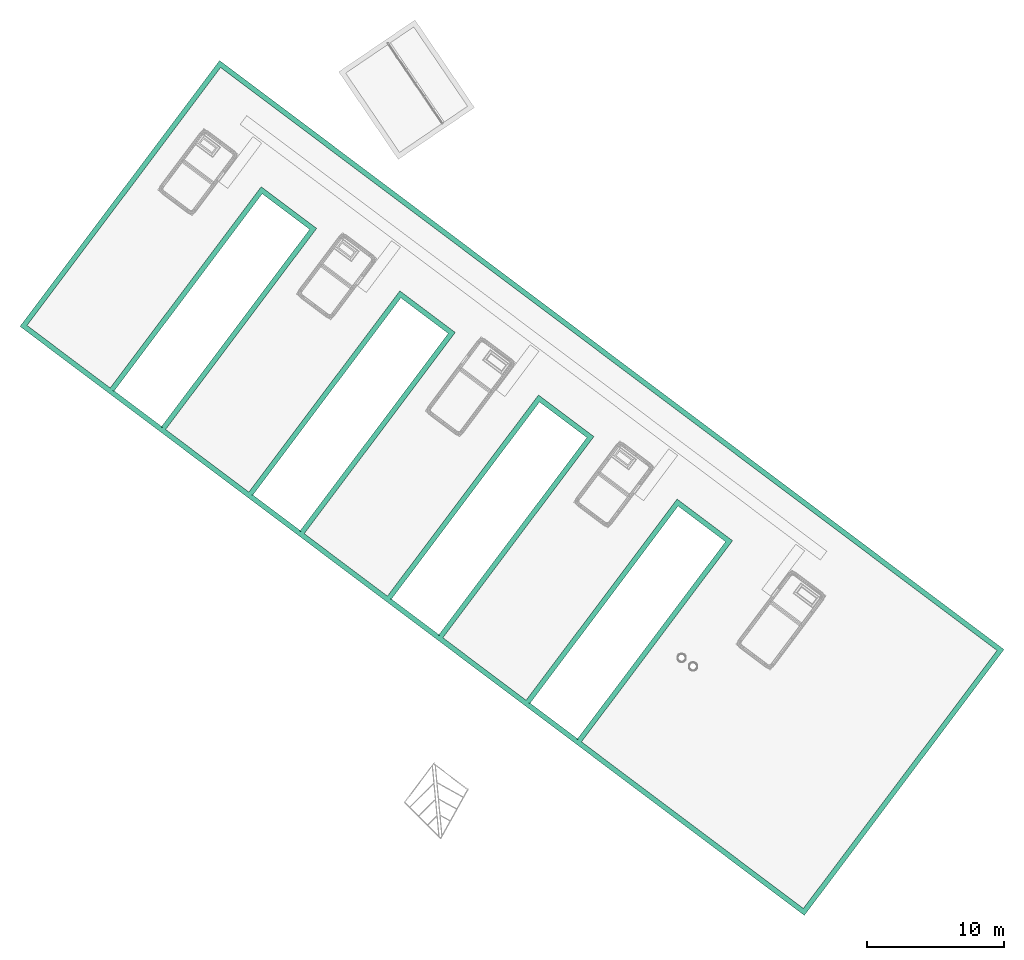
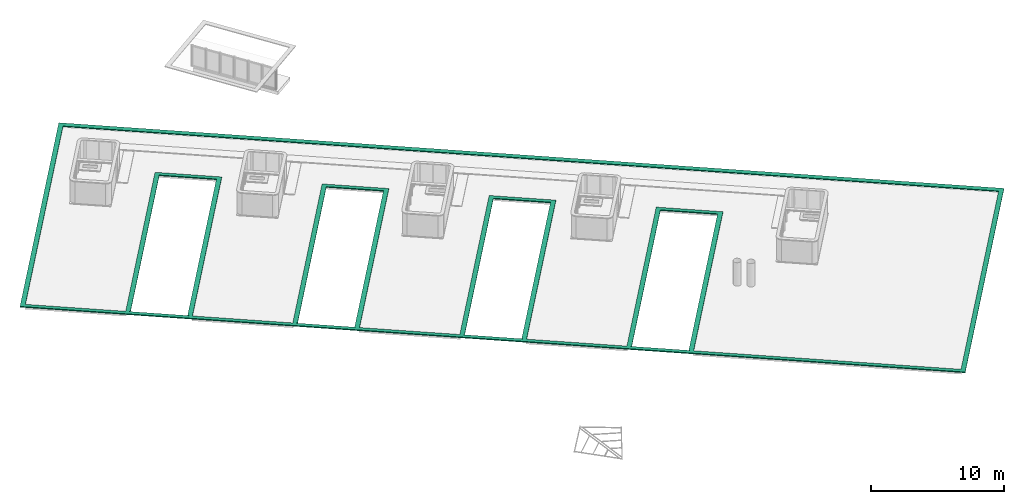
# One storey, part 24 of 28: 1 flow segment.
"""IFC2X3 building model written with IfcOpenShell, lengths in metres."""

from ifc_helpers import new_model, entity, si_unit, converted_unit, derived_unit, direction, frame, origin, place, context, subcontext, project, spatial, faceted_brep, source, transform, mapped, type_object, type_shapes, element, save


model = new_model("IFC2X3")

# Units and contexts
model_context = context("Model", 3, precision=1e-05, world=origin(), true_north=direction((6.123031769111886e-17, 1.0)))
body_context = subcontext(model_context, "Body", "Model", "MODEL_VIEW")
ifc_project = project(units=[si_unit("LENGTHUNIT", "METRE"), si_unit("AREAUNIT", "SQUARE_METRE"), si_unit("VOLUMEUNIT", "CUBIC_METRE"), converted_unit("PLANEANGLEUNIT", "DEGREE", entity("IfcRatioMeasure", 0.017453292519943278), si_unit("PLANEANGLEUNIT", "RADIAN"), dimensions=[0, 0, 0, 0, 0, 0, 0]), si_unit("MASSUNIT", "GRAM", prefix="KILO"), derived_unit("MASSDENSITYUNIT", [(si_unit("MASSUNIT", "GRAM", prefix="KILO"), 1), (si_unit("LENGTHUNIT", "METRE"), -3)]), derived_unit("IONCONCENTRATIONUNIT", [(si_unit("MASSUNIT", "GRAM", prefix="KILO"), 1), (si_unit("LENGTHUNIT", "METRE"), -3)]), derived_unit("MOMENTOFINERTIAUNIT", [(si_unit("LENGTHUNIT", "METRE"), 4)]), si_unit("TIMEUNIT", "SECOND"), si_unit("FREQUENCYUNIT", "HERTZ"), si_unit("THERMODYNAMICTEMPERATUREUNIT", "DEGREE_CELSIUS"), derived_unit("THERMALTRANSMITTANCEUNIT", [(si_unit("MASSUNIT", "GRAM", prefix="KILO"), 1), (si_unit("THERMODYNAMICTEMPERATUREUNIT", "KELVIN"), -1), (si_unit("TIMEUNIT", "SECOND"), -3)]), derived_unit("THERMALCONDUCTANCEUNIT", [(si_unit("MASSUNIT", "GRAM", prefix="KILO"), 1), (si_unit("THERMODYNAMICTEMPERATUREUNIT", "KELVIN"), -1), (si_unit("TIMEUNIT", "SECOND"), -3), (si_unit("LENGTHUNIT", "METRE"), 1)]), derived_unit("VOLUMETRICFLOWRATEUNIT", [(si_unit("LENGTHUNIT", "METRE"), 3), (si_unit("TIMEUNIT", "SECOND"), -1)]), derived_unit("MASSFLOWRATEUNIT", [(si_unit("MASSUNIT", "GRAM", prefix="KILO"), 1), (si_unit("TIMEUNIT", "SECOND"), -1)]), derived_unit("ROTATIONALFREQUENCYUNIT", [(si_unit("TIMEUNIT", "SECOND"), -1)]), si_unit("ELECTRICCURRENTUNIT", "AMPERE"), si_unit("ELECTRICVOLTAGEUNIT", "VOLT"), si_unit("POWERUNIT", "WATT"), si_unit("FORCEUNIT", "NEWTON", prefix="KILO"), si_unit("ILLUMINANCEUNIT", "LUX"), si_unit("LUMINOUSFLUXUNIT", "LUMEN"), si_unit("LUMINOUSINTENSITYUNIT", "CANDELA"), derived_unit("USERDEFINED", [(si_unit("MASSUNIT", "GRAM", prefix="KILO"), -1), (si_unit("LENGTHUNIT", "METRE"), -2), (si_unit("TIMEUNIT", "SECOND"), 3), (si_unit("LUMINOUSFLUXUNIT", "LUMEN"), 1)]), derived_unit("USERDEFINED", [(si_unit("MASSUNIT", "GRAM", prefix="KILO"), 1), (si_unit("TIMEUNIT", "SECOND"), -3), (si_unit("LENGTHUNIT", "METRE"), 3), (si_unit("ELECTRICCURRENTUNIT", "AMPERE"), -2)]), derived_unit("SOUNDPOWERUNIT", [(si_unit("MASSUNIT", "GRAM", prefix="KILO"), 1), (si_unit("TIMEUNIT", "SECOND"), -3), (si_unit("LENGTHUNIT", "METRE"), 2)]), derived_unit("SOUNDPRESSUREUNIT", [(si_unit("MASSUNIT", "GRAM", prefix="KILO"), 1), (si_unit("LENGTHUNIT", "METRE"), -1), (si_unit("TIMEUNIT", "SECOND"), -2)]), derived_unit("LINEARVELOCITYUNIT", [(si_unit("LENGTHUNIT", "METRE"), 1), (si_unit("TIMEUNIT", "SECOND"), -1)]), si_unit("PRESSUREUNIT", "PASCAL"), derived_unit("USERDEFINED", [(si_unit("MASSUNIT", "GRAM", prefix="KILO"), 1), (si_unit("LENGTHUNIT", "METRE"), -2), (si_unit("TIMEUNIT", "SECOND"), -2)]), derived_unit("LINEARFORCEUNIT", [(si_unit("MASSUNIT", "GRAM", prefix="KILO"), 1), (si_unit("TIMEUNIT", "SECOND"), -2)]), derived_unit("PLANARFORCEUNIT", [(si_unit("MASSUNIT", "GRAM", prefix="KILO"), 1), (si_unit("LENGTHUNIT", "METRE"), -1), (si_unit("TIMEUNIT", "SECOND"), -2)]), derived_unit("SPECIFICHEATCAPACITYUNIT", [(si_unit("THERMODYNAMICTEMPERATUREUNIT", "KELVIN"), -1), (si_unit("LENGTHUNIT", "METRE"), 2), (si_unit("TIMEUNIT", "SECOND"), -2)]), derived_unit("HEATINGVALUEUNIT", [(si_unit("LENGTHUNIT", "METRE"), 2), (si_unit("TIMEUNIT", "SECOND"), -2)]), derived_unit("VAPORPERMEABILITYUNIT", [(si_unit("LENGTHUNIT", "METRE"), -1), (si_unit("TIMEUNIT", "SECOND"), 1)]), derived_unit("DYNAMICVISCOSITYUNIT", [(si_unit("MASSUNIT", "GRAM", prefix="KILO"), 1), (si_unit("TIMEUNIT", "SECOND"), -1), (si_unit("LENGTHUNIT", "METRE"), -1)]), derived_unit("THERMALEXPANSIONCOEFFICIENTUNIT", [(si_unit("THERMODYNAMICTEMPERATUREUNIT", "KELVIN"), -1)]), derived_unit("MODULUSOFELASTICITYUNIT", [(si_unit("MASSUNIT", "GRAM", prefix="KILO"), 1), (si_unit("LENGTHUNIT", "METRE"), -1), (si_unit("TIMEUNIT", "SECOND"), -2)]), derived_unit("ISOTHERMALMOISTURECAPACITYUNIT", [(si_unit("LENGTHUNIT", "METRE"), 3), (si_unit("MASSUNIT", "GRAM", prefix="KILO"), -1)]), derived_unit("MOISTUREDIFFUSIVITYUNIT", [(si_unit("TIMEUNIT", "SECOND"), -1), (si_unit("LENGTHUNIT", "METRE"), 2)])], contexts=[model_context])

# Site, building, storey
site_placement = place(None, frame((0.0, 0.0, 235.0), z_axis=(0.0, 0.0, 1.0), x_axis=(-0.7996477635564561, 0.6004693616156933, 0.0)))
site = spatial("IfcSite", under=ifc_project, at=site_placement, Name="Default", CompositionType="ELEMENT")
building_placement = place(site_placement, origin())
building = spatial("IfcBuilding", under=site, at=building_placement, CompositionType="ELEMENT")
storey_placement = place(building_placement, frame((0.0, 0.0, 3.400000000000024)))
storey = spatial("IfcBuildingStorey", under=building, at=storey_placement, Name="PC- Coberta STR", CompositionType="ELEMENT", Elevation=3.400000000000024)

# Flow segment
pipe_segment_type = type_object("IfcPipeSegmentType", Name="Canalón:COB- Remat xapa coberta", PredefinedType="GUTTER")
shared_shape = source(origin(), body_context, "Body", "Brep", [
    faceted_brep([(71.50532011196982, 0.3493204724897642, 0.010000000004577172), (71.48799960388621, 0.36664098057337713, 0.0), (71.48799960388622, 23.987999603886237, 0.0), (71.50532011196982, 24.005320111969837, 0.010000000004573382), (71.50432011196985, 0.3503204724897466, 0.0117320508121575), (71.50432011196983, 24.004320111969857, 0.011732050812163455), (71.48999960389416, 0.364640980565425, 0.0034641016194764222), (71.48999960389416, 23.989999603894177, 0.0034641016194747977), (71.48999960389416, 0.36464098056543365, 0.0780975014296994), (71.48999960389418, 23.989999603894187, 0.0780975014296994), (71.85264058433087, 0.002000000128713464, 0.1033577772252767), (71.85264058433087, 24.352640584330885, 0.1033577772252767), (71.85264058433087, 0.002000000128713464, 0.028923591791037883), (71.85264058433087, 24.352640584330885, 0.028923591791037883), (71.83832007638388, 0.016320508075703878, 0.03719154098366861), (71.83832007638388, 24.338320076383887, 0.03719154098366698), (71.83732007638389, 0.01732050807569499, 0.03545949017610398), (71.8373200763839, 24.33732007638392, 0.035459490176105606), (71.85464058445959, 0.0, 0.025459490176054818), (71.85464058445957, 24.35464058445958, 0.025459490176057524), (71.85464058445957, 0.0, 0.10546027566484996), (71.85464058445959, 24.3546405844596, 0.10546027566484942), (71.48799960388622, 0.36664098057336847, 0.08000000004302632), (71.48799960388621, 23.987999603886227, 0.08000000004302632), (0.3666409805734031, 23.98799960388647, 0.0), (0.34932047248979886, 24.005320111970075, 0.010000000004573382), (0.3503204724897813, 24.004320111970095, 0.011732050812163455), (0.3646409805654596, 23.989999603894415, 0.0034641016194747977), (0.36464098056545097, 23.98999960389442, 0.0780975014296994), (0.0020000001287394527, 24.352640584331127, 0.1033577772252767), (0.0020000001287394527, 24.352640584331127, 0.028923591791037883), (0.016320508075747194, 24.33832007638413, 0.03719154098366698), (0.017320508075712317, 24.337320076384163, 0.035459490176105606), (0.0, 24.354640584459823, 0.025459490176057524), (0.0, 24.35464058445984, 0.10546027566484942), (0.36664098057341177, 23.987999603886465, 0.08000000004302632), (0.3666409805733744, 0.366640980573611, 0.0), (0.3493204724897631, 0.3493204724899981, 0.010000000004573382), (0.35032047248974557, 0.35032047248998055, 0.011732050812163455), (0.36464098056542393, 0.3646409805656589, 0.0034641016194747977), (0.3646409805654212, 0.3646409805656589, 0.0780975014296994), (0.002000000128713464, 0.0020000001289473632, 0.1033577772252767), (0.002000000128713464, 0.0020000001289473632, 0.028923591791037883), (0.016320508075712, 0.01632050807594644, 0.03719154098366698), (0.017320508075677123, 0.017320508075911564, 0.035459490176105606), (0.0, 0.0, 0.025459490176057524), (0.0, 0.0, 0.10546027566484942), (0.366640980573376, 0.366640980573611, 0.08000000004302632)], [[[0, 1, 2, 3]], [[4, 0, 3, 5]], [[6, 4, 5, 7]], [[8, 6, 7, 9]], [[10, 8, 9, 11]], [[12, 10, 11, 13]], [[14, 12, 13, 15]], [[16, 14, 15, 17]], [[18, 16, 17, 19]], [[20, 18, 19, 21]], [[22, 20, 21, 23]], [[1, 22, 23, 2]], [[3, 2, 24, 25]], [[5, 3, 25, 26]], [[7, 5, 26, 27]], [[9, 7, 27, 28]], [[11, 9, 28, 29]], [[13, 11, 29, 30]], [[15, 13, 30, 31]], [[17, 15, 31, 32]], [[19, 17, 32, 33]], [[21, 19, 33, 34]], [[23, 21, 34, 35]], [[2, 23, 35, 24]], [[25, 24, 36, 37]], [[26, 25, 37, 38]], [[27, 26, 38, 39]], [[28, 27, 39, 40]], [[29, 28, 40, 41]], [[30, 29, 41, 42]], [[31, 30, 42, 43]], [[32, 31, 43, 44]], [[33, 32, 44, 45]], [[34, 33, 45, 46]], [[35, 34, 46, 47]], [[24, 35, 47, 36]], [[37, 36, 1, 0]], [[38, 37, 0, 4]], [[39, 38, 4, 6]], [[40, 39, 6, 8]], [[41, 40, 8, 10]], [[42, 41, 10, 12]], [[43, 42, 12, 14]], [[44, 43, 14, 16]], [[45, 44, 16, 18]], [[46, 45, 18, 20]], [[47, 46, 20, 22]], [[36, 47, 22, 1]]]),
    faceted_brep([(63.8666409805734, 24.027320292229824, 0.0), (63.849320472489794, 24.027320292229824, 0.010000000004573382), (63.85032047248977, 24.027320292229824, 0.011732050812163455), (63.864640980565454, 24.027320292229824, 0.0034641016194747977), (63.86464098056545, 24.027320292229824, 0.0780975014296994), (63.502000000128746, 24.027320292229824, 0.1033577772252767), (63.502000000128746, 24.027320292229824, 0.028923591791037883), (63.51632050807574, 24.027320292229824, 0.03719154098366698), (63.51732050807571, 24.027320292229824, 0.035459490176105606), (63.50000000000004, 24.027320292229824, 0.025459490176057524), (63.500000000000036, 24.027320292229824, 0.10546027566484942), (63.8666409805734, 24.027320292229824, 0.08000000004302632), (63.86664098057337, 5.562999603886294, 0.0), (63.84932047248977, 5.580320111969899, 0.010000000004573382), (63.85032047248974, 5.579320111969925, 0.011732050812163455), (63.86464098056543, 5.564999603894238, 0.0034641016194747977), (63.864640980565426, 5.564999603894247, 0.0780975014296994), (63.50200000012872, 5.92764058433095, 0.1033577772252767), (63.50200000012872, 5.92764058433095, 0.028923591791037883), (63.51632050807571, 5.913320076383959, 0.03719154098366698), (63.517320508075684, 5.912320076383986, 0.035459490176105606), (63.500000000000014, 5.929640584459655, 0.025459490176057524), (63.50000000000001, 5.929640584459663, 0.10546027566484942), (63.86664098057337, 5.562999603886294, 0.08000000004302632), (58.78799960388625, 24.02732029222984, 0.0), (58.78799960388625, 24.02732029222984, 0.08000000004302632), (59.15464058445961, 24.02732029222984, 0.10546027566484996), (59.154640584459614, 24.02732029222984, 0.025459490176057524), (59.13732007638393, 24.02732029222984, 0.035459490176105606), (59.13832007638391, 24.02732029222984, 0.03719154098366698), (59.1526405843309, 24.02732029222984, 0.028923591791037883), (59.1526405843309, 24.02732029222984, 0.1033577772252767), (58.78999960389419, 24.02732029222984, 0.0780975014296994), (58.789999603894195, 24.02732029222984, 0.0034641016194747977), (58.80432011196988, 24.02732029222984, 0.011732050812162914), (58.80532011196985, 24.02732029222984, 0.010000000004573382), (58.80532011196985, 5.5803201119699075, 0.010000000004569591), (58.78799960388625, 5.562999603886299, 0.0), (58.80432011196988, 5.579320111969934, 0.011732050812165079), (58.789999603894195, 5.564999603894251, 0.0034641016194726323), (58.78999960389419, 5.564999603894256, 0.0780975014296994), (59.1526405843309, 5.927640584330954, 0.10335777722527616), (59.1526405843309, 5.927640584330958, 0.028923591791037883), (59.13832007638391, 5.913320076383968, 0.037191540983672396), (59.13732007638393, 5.91232007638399, 0.03545949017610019), (59.154640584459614, 5.929640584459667, 0.025459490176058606), (59.15464058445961, 5.929640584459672, 0.10546027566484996), (58.78799960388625, 5.562999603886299, 0.08000000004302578)], [[[0, 1, 2, 3, 4, 5, 6, 7, 8, 9, 10, 11]], [[1, 0, 12, 13]], [[2, 1, 13, 14]], [[3, 2, 14, 15]], [[4, 3, 15, 16]], [[5, 4, 16, 17]], [[6, 5, 17, 18]], [[7, 6, 18, 19]], [[8, 7, 19, 20]], [[9, 8, 20, 21]], [[10, 9, 21, 22]], [[11, 10, 22, 23]], [[0, 11, 23, 12]], [[24, 25, 26, 27, 28, 29, 30, 31, 32, 33, 34, 35]], [[36, 37, 24, 35]], [[38, 36, 35, 34]], [[39, 38, 34, 33]], [[40, 39, 33, 32]], [[41, 40, 32, 31]], [[42, 41, 31, 30]], [[43, 42, 30, 29]], [[44, 43, 29, 28]], [[45, 44, 28, 27]], [[46, 45, 27, 26]], [[47, 46, 26, 25]], [[37, 47, 25, 24]], [[13, 12, 37, 36]], [[14, 13, 36, 38]], [[15, 14, 38, 39]], [[16, 15, 39, 40]], [[17, 16, 40, 41]], [[18, 17, 41, 42]], [[19, 18, 42, 43]], [[20, 19, 43, 44]], [[21, 20, 44, 45]], [[22, 21, 45, 46]], [[23, 22, 46, 47]], [[12, 23, 47, 37]]]),
    faceted_brep([(51.166640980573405, 24.02732029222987, 0.0), (51.1493204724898, 24.02732029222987, 0.010000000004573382), (51.150320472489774, 24.02732029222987, 0.011732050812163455), (51.16464098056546, 24.02732029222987, 0.0034641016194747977), (51.16464098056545, 24.02732029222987, 0.0780975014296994), (50.80200000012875, 24.02732029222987, 0.1033577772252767), (50.80200000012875, 24.02732029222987, 0.028923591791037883), (50.81632050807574, 24.02732029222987, 0.03719154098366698), (50.81732050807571, 24.02732029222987, 0.035459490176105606), (50.80000000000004, 24.02732029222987, 0.025459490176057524), (50.80000000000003, 24.02732029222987, 0.10546027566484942), (51.166640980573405, 24.02732029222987, 0.08000000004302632), (51.166640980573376, 5.562999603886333, 0.0), (51.14932047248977, 5.580320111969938, 0.010000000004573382), (51.150320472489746, 5.579320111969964, 0.011732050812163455), (51.16464098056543, 5.564999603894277, 0.0034641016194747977), (51.16464098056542, 5.564999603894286, 0.0780975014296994), (50.80200000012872, 5.927640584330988, 0.1033577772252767), (50.80200000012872, 5.927640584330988, 0.028923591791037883), (50.81632050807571, 5.913320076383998, 0.03719154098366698), (50.81732050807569, 5.912320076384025, 0.035459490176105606), (50.80000000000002, 5.929640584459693, 0.025459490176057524), (50.80000000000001, 5.929640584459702, 0.10546027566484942), (51.166640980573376, 5.562999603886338, 0.08000000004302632), (46.087999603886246, 24.027320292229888, 0.0), (46.08799960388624, 24.027320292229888, 0.08000000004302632), (46.45464058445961, 24.027320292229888, 0.10546027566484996), (46.45464058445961, 24.027320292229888, 0.025459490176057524), (46.43732007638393, 24.027320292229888, 0.035459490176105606), (46.4383200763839, 24.027320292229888, 0.03719154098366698), (46.452640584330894, 24.027320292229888, 0.028923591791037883), (46.452640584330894, 24.027320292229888, 0.1033577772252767), (46.089999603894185, 24.027320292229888, 0.0780975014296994), (46.0899996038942, 24.027320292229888, 0.0034641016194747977), (46.10432011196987, 24.027320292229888, 0.011732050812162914), (46.105320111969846, 24.027320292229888, 0.010000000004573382), (46.105320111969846, 5.580320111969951, 0.010000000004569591), (46.087999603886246, 5.562999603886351, 0.0), (46.10432011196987, 5.579320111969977, 0.011732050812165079), (46.0899996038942, 5.564999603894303, 0.0034641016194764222), (46.089999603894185, 5.564999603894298, 0.0780975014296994), (46.452640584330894, 5.927640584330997, 0.10335777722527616), (46.452640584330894, 5.927640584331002, 0.028923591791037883), (46.4383200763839, 5.913320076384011, 0.037191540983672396), (46.43732007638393, 5.912320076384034, 0.03545949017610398), (46.45464058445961, 5.929640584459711, 0.025459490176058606), (46.45464058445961, 5.929640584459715, 0.10546027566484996), (46.08799960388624, 5.562999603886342, 0.08000000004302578)], [[[0, 1, 2, 3, 4, 5, 6, 7, 8, 9, 10, 11]], [[1, 0, 12, 13]], [[2, 1, 13, 14]], [[3, 2, 14, 15]], [[4, 3, 15, 16]], [[5, 4, 16, 17]], [[6, 5, 17, 18]], [[7, 6, 18, 19]], [[8, 7, 19, 20]], [[9, 8, 20, 21]], [[10, 9, 21, 22]], [[11, 10, 22, 23]], [[0, 11, 23, 12]], [[24, 25, 26, 27, 28, 29, 30, 31, 32, 33, 34, 35]], [[36, 37, 24, 35]], [[38, 36, 35, 34]], [[39, 38, 34, 33]], [[40, 39, 33, 32]], [[41, 40, 32, 31]], [[42, 41, 31, 30]], [[43, 42, 30, 29]], [[44, 43, 29, 28]], [[45, 44, 28, 27]], [[46, 45, 27, 26]], [[47, 46, 26, 25]], [[37, 47, 25, 24]], [[13, 12, 37, 36]], [[14, 13, 36, 38]], [[15, 14, 38, 39]], [[16, 15, 39, 40]], [[17, 16, 40, 41]], [[18, 17, 41, 42]], [[19, 18, 42, 43]], [[20, 19, 43, 44]], [[21, 20, 44, 45]], [[22, 21, 45, 46]], [[23, 22, 46, 47]], [[12, 23, 47, 37]]]),
    faceted_brep([(38.46664098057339, 24.027320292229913, 0.0), (38.44932047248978, 24.027320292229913, 0.010000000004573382), (38.45032047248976, 24.027320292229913, 0.011732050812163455), (38.46464098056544, 24.027320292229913, 0.0034641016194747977), (38.464640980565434, 24.027320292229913, 0.0780975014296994), (38.10200000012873, 24.027320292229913, 0.1033577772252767), (38.10200000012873, 24.027320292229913, 0.028923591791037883), (38.116320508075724, 24.027320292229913, 0.03719154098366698), (38.1173205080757, 24.027320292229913, 0.035459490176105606), (38.10000000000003, 24.027320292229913, 0.025459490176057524), (38.10000000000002, 24.027320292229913, 0.10546027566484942), (38.46664098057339, 24.027320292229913, 0.08000000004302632), (38.46664098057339, 5.562999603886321, 0.0), (38.44932047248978, 5.580320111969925, 0.010000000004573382), (38.45032047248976, 5.579320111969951, 0.011732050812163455), (38.46464098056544, 5.564999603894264, 0.0034641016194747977), (38.464640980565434, 5.564999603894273, 0.0780975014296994), (38.10200000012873, 5.927640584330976, 0.1033577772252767), (38.10200000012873, 5.927640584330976, 0.028923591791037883), (38.116320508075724, 5.913320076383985, 0.03719154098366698), (38.1173205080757, 5.912320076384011, 0.035459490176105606), (38.10000000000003, 5.929640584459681, 0.025459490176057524), (38.10000000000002, 5.92964058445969, 0.10546027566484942), (38.46664098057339, 5.562999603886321, 0.08000000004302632), (33.387999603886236, 5.562999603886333, 0.0), (33.40532011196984, 5.580320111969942, 0.010000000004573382), (33.40432011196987, 5.5793201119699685, 0.011732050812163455), (33.38999960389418, 5.5649996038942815, 0.0034641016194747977), (33.38999960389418, 5.564999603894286, 0.0780975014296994), (33.75264058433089, 5.927640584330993, 0.1033577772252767), (33.75264058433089, 5.927640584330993, 0.028923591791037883), (33.7383200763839, 5.913320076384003, 0.03719154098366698), (33.73732007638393, 5.912320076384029, 0.035459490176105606), (33.754640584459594, 5.9296405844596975, 0.025459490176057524), (33.75464058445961, 5.929640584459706, 0.10546027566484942), (33.387999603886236, 5.562999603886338, 0.08000000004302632), (33.387999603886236, 24.02732029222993, 0.0), (33.387999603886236, 24.02732029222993, 0.08000000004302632), (33.754640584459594, 24.02732029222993, 0.10546027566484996), (33.754640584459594, 24.02732029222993, 0.025459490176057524), (33.73732007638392, 24.02732029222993, 0.035459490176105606), (33.7383200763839, 24.02732029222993, 0.03719154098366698), (33.752640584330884, 24.02732029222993, 0.028923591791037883), (33.75264058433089, 24.02732029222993, 0.1033577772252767), (33.38999960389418, 24.02732029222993, 0.0780975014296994), (33.38999960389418, 24.02732029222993, 0.0034641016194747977), (33.40432011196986, 24.02732029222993, 0.011732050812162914), (33.405320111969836, 24.02732029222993, 0.010000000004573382)], [[[0, 1, 2, 3, 4, 5, 6, 7, 8, 9, 10, 11]], [[1, 0, 12, 13]], [[2, 1, 13, 14]], [[3, 2, 14, 15]], [[4, 3, 15, 16]], [[5, 4, 16, 17]], [[6, 5, 17, 18]], [[7, 6, 18, 19]], [[8, 7, 19, 20]], [[9, 8, 20, 21]], [[10, 9, 21, 22]], [[11, 10, 22, 23]], [[0, 11, 23, 12]], [[13, 12, 24, 25]], [[14, 13, 25, 26]], [[15, 14, 26, 27]], [[16, 15, 27, 28]], [[17, 16, 28, 29]], [[18, 17, 29, 30]], [[19, 18, 30, 31]], [[20, 19, 31, 32]], [[21, 20, 32, 33]], [[22, 21, 33, 34]], [[23, 22, 34, 35]], [[12, 23, 35, 24]], [[36, 37, 38, 39, 40, 41, 42, 43, 44, 45, 46, 47]], [[25, 24, 36, 47]], [[26, 25, 47, 46]], [[27, 26, 46, 45]], [[28, 27, 45, 44]], [[29, 28, 44, 43]], [[30, 29, 43, 42]], [[31, 30, 42, 41]], [[32, 31, 41, 40]], [[33, 32, 40, 39]], [[34, 33, 39, 38]], [[35, 34, 38, 37]], [[24, 35, 37, 36]]]),
    faceted_brep([(25.766640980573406, 24.027320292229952, 0.0), (25.749320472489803, 24.027320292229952, 0.010000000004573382), (25.750320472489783, 24.027320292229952, 0.011732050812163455), (25.76464098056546, 24.027320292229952, 0.0034641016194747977), (25.76464098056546, 24.027320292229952, 0.0780975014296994), (25.402000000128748, 24.027320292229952, 0.1033577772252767), (25.40200000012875, 24.027320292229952, 0.028923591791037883), (25.41632050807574, 24.027320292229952, 0.03719154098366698), (25.417320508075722, 24.027320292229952, 0.035459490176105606), (25.40000000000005, 24.027320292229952, 0.025459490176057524), (25.400000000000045, 24.027320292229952, 0.10546027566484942), (25.766640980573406, 24.027320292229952, 0.08000000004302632), (25.766640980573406, 5.562999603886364, 0.0), (25.749320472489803, 5.580320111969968, 0.010000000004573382), (25.750320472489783, 5.57932011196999, 0.011732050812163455), (25.76464098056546, 5.564999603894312, 0.0034641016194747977), (25.76464098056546, 5.564999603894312, 0.0780975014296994), (25.402000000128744, 5.927640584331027, 0.1033577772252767), (25.40200000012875, 5.927640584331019, 0.028923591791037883), (25.41632050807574, 5.913320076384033, 0.03719154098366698), (25.417320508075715, 5.912320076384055, 0.035459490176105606), (25.40000000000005, 5.929640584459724, 0.025459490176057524), (25.400000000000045, 5.929640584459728, 0.10546027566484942), (25.766640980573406, 5.562999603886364, 0.08000000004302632), (20.68799960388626, 5.562999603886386, 0.0), (20.70532011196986, 5.580320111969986, 0.010000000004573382), (20.70432011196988, 5.5793201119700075, 0.011732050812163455), (20.689999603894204, 5.5649996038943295, 0.0034641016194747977), (20.689999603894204, 5.5649996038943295, 0.0780975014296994), (21.052640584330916, 5.927640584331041, 0.1033577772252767), (21.052640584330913, 5.927640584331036, 0.028923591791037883), (21.038320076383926, 5.91332007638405, 0.03719154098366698), (21.037320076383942, 5.912320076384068, 0.035459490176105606), (21.054640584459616, 5.929640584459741, 0.025459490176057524), (21.05464058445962, 5.9296405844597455, 0.10546027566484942), (20.687999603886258, 5.562999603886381, 0.08000000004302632), (20.68799960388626, 24.02732029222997, 0.0), (20.68799960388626, 24.02732029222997, 0.08000000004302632), (21.054640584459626, 24.02732029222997, 0.10546027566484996), (21.05464058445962, 24.02732029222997, 0.025459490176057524), (21.037320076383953, 24.02732029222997, 0.035459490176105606), (21.03832007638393, 24.02732029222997, 0.03719154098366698), (21.052640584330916, 24.02732029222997, 0.028923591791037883), (21.05264058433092, 24.02732029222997, 0.1033577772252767), (20.68999960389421, 24.02732029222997, 0.0780975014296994), (20.689999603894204, 24.02732029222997, 0.0034641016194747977), (20.70432011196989, 24.02732029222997, 0.011732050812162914), (20.705320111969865, 24.02732029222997, 0.010000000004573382)], [[[0, 1, 2, 3, 4, 5, 6, 7, 8, 9, 10, 11]], [[1, 0, 12, 13]], [[2, 1, 13, 14]], [[3, 2, 14, 15]], [[4, 3, 15, 16]], [[5, 4, 16, 17]], [[6, 5, 17, 18]], [[7, 6, 18, 19]], [[8, 7, 19, 20]], [[9, 8, 20, 21]], [[10, 9, 21, 22]], [[11, 10, 22, 23]], [[0, 11, 23, 12]], [[13, 12, 24, 25]], [[14, 13, 25, 26]], [[15, 14, 26, 27]], [[16, 15, 27, 28]], [[17, 16, 28, 29]], [[18, 17, 29, 30]], [[19, 18, 30, 31]], [[20, 19, 31, 32]], [[21, 20, 32, 33]], [[22, 21, 33, 34]], [[23, 22, 34, 35]], [[12, 23, 35, 24]], [[36, 37, 38, 39, 40, 41, 42, 43, 44, 45, 46, 47]], [[25, 24, 36, 47]], [[26, 25, 47, 46]], [[27, 26, 46, 45]], [[28, 27, 45, 44]], [[29, 28, 44, 43]], [[30, 29, 43, 42]], [[31, 30, 42, 41]], [[32, 31, 41, 40]], [[33, 32, 40, 39]], [[34, 33, 39, 38]], [[35, 34, 38, 37]], [[24, 35, 37, 36]]]),
])
type_shapes(pipe_segment_type, [shared_shape])
flow_segment_placement = place(storey_placement, frame((2.917827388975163, -42.36751205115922, 0.34946162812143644)))
element("IfcFlowSegment", 1, at=flow_segment_placement, inside=storey, type_object=pipe_segment_type, Name="Canalón:COB- Remat xapa coberta", ObjectType="Canalón:COB- Remat xapa coberta", context=body_context, shape_type="MappedRepresentation", body=[
    mapped(shared_shape, transform((0.0, 0.0, 0.0), scale=1.0)),
])

save(model, "model.ifc")
